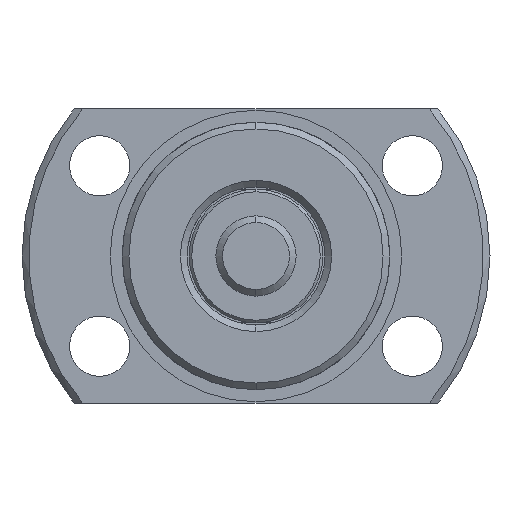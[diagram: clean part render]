
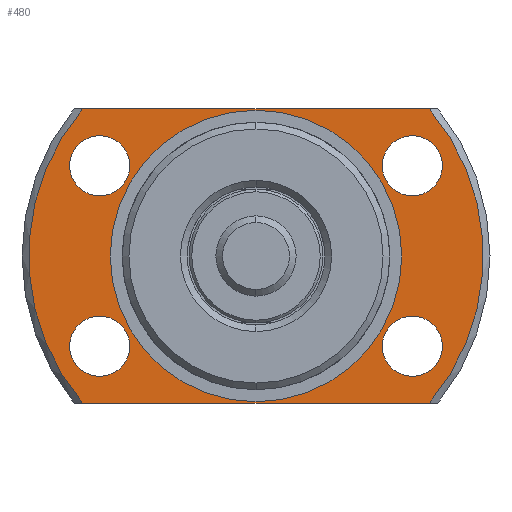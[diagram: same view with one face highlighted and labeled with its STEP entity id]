
A CAD part, left-side view. The second image highlights one B-rep face of the part: STEP entity #480.
In plain terms, the highlighted planar face has unit normal (-1, 0, 0).
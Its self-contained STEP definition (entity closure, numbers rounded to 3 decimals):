
#49 = DIRECTION ( 'NONE',  ( 0., 0., -1. ) ) ;
#51 = CARTESIAN_POINT ( 'NONE',  ( -5., 0., 0. ) ) ;
#68 = DIRECTION ( 'NONE',  ( 1., 0., 0. ) ) ;
#105 = DIRECTION ( 'NONE',  ( 0., 0., 1. ) ) ;
#106 = DIRECTION ( 'NONE',  ( -1., 0., 0. ) ) ;
#109 = CARTESIAN_POINT ( 'NONE',  ( -5., 11.691, -6.75 ) ) ;
#135 = DIRECTION ( 'NONE',  ( 0., 0., 1. ) ) ;
#136 = CARTESIAN_POINT ( 'NONE',  ( -5., 11.691, 6.75 ) ) ;
#137 = DIRECTION ( 'NONE',  ( -1., 0., 0. ) ) ;
#233 = AXIS2_PLACEMENT_3D ( 'NONE', #3146, #3160, #3143 ) ;
#356 = AXIS2_PLACEMENT_3D ( 'NONE', #2792, #2791, #2790 ) ;
#357 = AXIS2_PLACEMENT_3D ( 'NONE', #2787, #2786, #2785 ) ;
#358 = AXIS2_PLACEMENT_3D ( 'NONE', #2777, #2776, #2775 ) ;
#359 = AXIS2_PLACEMENT_3D ( 'NONE', #2774, #2773, #2772 ) ;
#360 = AXIS2_PLACEMENT_3D ( 'NONE', #2769, #2766, #2764 ) ;
#361 = AXIS2_PLACEMENT_3D ( 'NONE', #2755, #2754, #2753 ) ;
#362 = AXIS2_PLACEMENT_3D ( 'NONE', #2747, #2746, #2744 ) ;
#407 = AXIS2_PLACEMENT_3D ( 'NONE', #1800, #1801, #1802 ) ;
#480 = ADVANCED_FACE ( 'NONE', ( #1889, #1379, #1381, #1887, #1377, #1380 ), #3153, .T. ) ;
#742 = EDGE_CURVE ( 'NONE', #2407, #2516, #1418, .T. ) ;
#743 = EDGE_CURVE ( 'NONE', #2403, #2400, #1417, .T. ) ;
#744 = EDGE_CURVE ( 'NONE', #2527, #2531, #1416, .T. ) ;
#745 = EDGE_CURVE ( 'NONE', #2507, #2508, #1415, .T. ) ;
#746 = EDGE_CURVE ( 'NONE', #2541, #2539, #1412, .T. ) ;
#747 = EDGE_CURVE ( 'NONE', #2440, #2438, #1414, .T. ) ;
#748 = EDGE_CURVE ( 'NONE', #2404, #2408, #1410, .T. ) ;
#751 = EDGE_CURVE ( 'NONE', #2527, #2508, #1408, .T. ) ;
#753 = EDGE_CURVE ( 'NONE', #2507, #2531, #1407, .T. ) ;
#815 = AXIS2_PLACEMENT_3D ( 'NONE', #1768, #1772, #1776 ) ;
#817 = AXIS2_PLACEMENT_3D ( 'NONE', #136, #137, #135 ) ;
#819 = AXIS2_PLACEMENT_3D ( 'NONE', #109, #106, #105 ) ;
#821 = AXIS2_PLACEMENT_3D ( 'NONE', #51, #68, #49 ) ;
#894 = CARTESIAN_POINT ( 'NONE',  ( -5., 11.691, 9. ) ) ;
#896 = CARTESIAN_POINT ( 'NONE',  ( -5., 11.691, 4.5 ) ) ;
#906 = CARTESIAN_POINT ( 'NONE',  ( -5., -12.961, -11. ) ) ;
#915 = CARTESIAN_POINT ( 'NONE',  ( -5., 12.961, -11. ) ) ;
#930 = CARTESIAN_POINT ( 'NONE',  ( -5., -11.691, -9. ) ) ;
#939 = CARTESIAN_POINT ( 'NONE',  ( -5., 12.961, 11. ) ) ;
#940 = CARTESIAN_POINT ( 'NONE',  ( -5., -12.961, 11. ) ) ;
#978 = CARTESIAN_POINT ( 'NONE',  ( -5., -11.691, 4.5 ) ) ;
#979 = CARTESIAN_POINT ( 'NONE',  ( -5., -11.691, -4.5 ) ) ;
#986 = CARTESIAN_POINT ( 'NONE',  ( -5., -11.691, 9. ) ) ;
#987 = CARTESIAN_POINT ( 'NONE',  ( -5., 11.691, -4.5 ) ) ;
#999 = CARTESIAN_POINT ( 'NONE',  ( -5., 11.691, -9. ) ) ;
#1020 = CARTESIAN_POINT ( 'NONE',  ( -5., 0., -10.9 ) ) ;
#1022 = CARTESIAN_POINT ( 'NONE',  ( -5., 0., 10.9 ) ) ;
#1377 = FACE_BOUND ( 'NONE', #2090, .T. ) ;
#1379 = FACE_BOUND ( 'NONE', #2083, .T. ) ;
#1380 = FACE_BOUND ( 'NONE', #2094, .T. ) ;
#1381 = FACE_BOUND ( 'NONE', #2092, .T. ) ;
#1407 = CIRCLE ( 'NONE', #362, 17. ) ;
#1408 = CIRCLE ( 'NONE', #361, 17. ) ;
#1410 = CIRCLE ( 'NONE', #360, 2.25 ) ;
#1411 = VECTOR ( 'NONE', #2783, 1000. ) ;
#1412 = CIRCLE ( 'NONE', #358, 2.25 ) ;
#1413 = VECTOR ( 'NONE', #2811, 1000. ) ;
#1414 = CIRCLE ( 'NONE', #359, 10.9 ) ;
#1415 = LINE ( 'NONE', #2789, #1411 ) ;
#1416 = LINE ( 'NONE', #2788, #1413 ) ;
#1417 = CIRCLE ( 'NONE', #357, 2.25 ) ;
#1418 = CIRCLE ( 'NONE', #356, 2.25 ) ;
#1508 = CIRCLE ( 'NONE', #815, 2.25 ) ;
#1515 = CIRCLE ( 'NONE', #407, 2.25 ) ;
#1768 = CARTESIAN_POINT ( 'NONE',  ( -5., -11.691, 6.75 ) ) ;
#1772 = DIRECTION ( 'NONE',  ( -1., 0., 0. ) ) ;
#1776 = DIRECTION ( 'NONE',  ( 0., 0., 1. ) ) ;
#1800 = CARTESIAN_POINT ( 'NONE',  ( -5., -11.691, -6.75 ) ) ;
#1801 = DIRECTION ( 'NONE',  ( -1., 0., 0. ) ) ;
#1802 = DIRECTION ( 'NONE',  ( 0., 0., 1. ) ) ;
#1865 = CIRCLE ( 'NONE', #821, 10.9 ) ;
#1871 = CIRCLE ( 'NONE', #819, 2.25 ) ;
#1876 = CIRCLE ( 'NONE', #817, 2.25 ) ;
#1887 = FACE_OUTER_BOUND ( 'NONE', #2093, .T. ) ;
#1889 = FACE_BOUND ( 'NONE', #2088, .T. ) ;
#2083 = EDGE_LOOP ( 'NONE', ( #4206, #4205 ) ) ;
#2088 = EDGE_LOOP ( 'NONE', ( #4208, #4207 ) ) ;
#2090 = EDGE_LOOP ( 'NONE', ( #4198, #4197 ) ) ;
#2092 = EDGE_LOOP ( 'NONE', ( #4204, #4203 ) ) ;
#2093 = EDGE_LOOP ( 'NONE', ( #4202, #4201, #4200, #4199 ) ) ;
#2094 = EDGE_LOOP ( 'NONE', ( #4196, #4195 ) ) ;
#2400 = VERTEX_POINT ( 'NONE', #999 ) ;
#2403 = VERTEX_POINT ( 'NONE', #987 ) ;
#2404 = VERTEX_POINT ( 'NONE', #986 ) ;
#2407 = VERTEX_POINT ( 'NONE', #979 ) ;
#2408 = VERTEX_POINT ( 'NONE', #978 ) ;
#2438 = VERTEX_POINT ( 'NONE', #1022 ) ;
#2440 = VERTEX_POINT ( 'NONE', #1020 ) ;
#2507 = VERTEX_POINT ( 'NONE', #940 ) ;
#2508 = VERTEX_POINT ( 'NONE', #939 ) ;
#2516 = VERTEX_POINT ( 'NONE', #930 ) ;
#2527 = VERTEX_POINT ( 'NONE', #915 ) ;
#2531 = VERTEX_POINT ( 'NONE', #906 ) ;
#2539 = VERTEX_POINT ( 'NONE', #896 ) ;
#2541 = VERTEX_POINT ( 'NONE', #894 ) ;
#2744 = DIRECTION ( 'NONE',  ( 0., 0., -1. ) ) ;
#2746 = DIRECTION ( 'NONE',  ( 1., 0., 0. ) ) ;
#2747 = CARTESIAN_POINT ( 'NONE',  ( -5., 0., 0. ) ) ;
#2753 = DIRECTION ( 'NONE',  ( 0., 0., -1. ) ) ;
#2754 = DIRECTION ( 'NONE',  ( 1., 0., 0. ) ) ;
#2755 = CARTESIAN_POINT ( 'NONE',  ( -5., 0., 0. ) ) ;
#2764 = DIRECTION ( 'NONE',  ( 0., 0., 1. ) ) ;
#2766 = DIRECTION ( 'NONE',  ( -1., 0., 0. ) ) ;
#2769 = CARTESIAN_POINT ( 'NONE',  ( -5., -11.691, 6.75 ) ) ;
#2772 = DIRECTION ( 'NONE',  ( 0., 0., -1. ) ) ;
#2773 = DIRECTION ( 'NONE',  ( 1., 0., 0. ) ) ;
#2774 = CARTESIAN_POINT ( 'NONE',  ( -5., 0., 0. ) ) ;
#2775 = DIRECTION ( 'NONE',  ( 0., 0., 1. ) ) ;
#2776 = DIRECTION ( 'NONE',  ( -1., 0., 0. ) ) ;
#2777 = CARTESIAN_POINT ( 'NONE',  ( -5., 11.691, 6.75 ) ) ;
#2783 = DIRECTION ( 'NONE',  ( 0., 1., 0. ) ) ;
#2785 = DIRECTION ( 'NONE',  ( 0., 0., 1. ) ) ;
#2786 = DIRECTION ( 'NONE',  ( -1., 0., 0. ) ) ;
#2787 = CARTESIAN_POINT ( 'NONE',  ( -5., 11.691, -6.75 ) ) ;
#2788 = CARTESIAN_POINT ( 'NONE',  ( -5., 17., -11. ) ) ;
#2789 = CARTESIAN_POINT ( 'NONE',  ( -5., 17., 11. ) ) ;
#2790 = DIRECTION ( 'NONE',  ( 0., 0., 1. ) ) ;
#2791 = DIRECTION ( 'NONE',  ( -1., 0., 0. ) ) ;
#2792 = CARTESIAN_POINT ( 'NONE',  ( -5., -11.691, -6.75 ) ) ;
#2811 = DIRECTION ( 'NONE',  ( 0., -1., 0. ) ) ;
#3143 = DIRECTION ( 'NONE',  ( 0., 0., 1. ) ) ;
#3146 = CARTESIAN_POINT ( 'NONE',  ( -5., 17., 0. ) ) ;
#3153 = PLANE ( 'NONE',  #233 ) ;
#3160 = DIRECTION ( 'NONE',  ( -1., 0., 0. ) ) ;
#3697 = EDGE_CURVE ( 'NONE', #2516, #2407, #1515, .T. ) ;
#3701 = EDGE_CURVE ( 'NONE', #2408, #2404, #1508, .T. ) ;
#3705 = EDGE_CURVE ( 'NONE', #2539, #2541, #1876, .T. ) ;
#3709 = EDGE_CURVE ( 'NONE', #2400, #2403, #1871, .T. ) ;
#3713 = EDGE_CURVE ( 'NONE', #2438, #2440, #1865, .T. ) ;
#4195 = ORIENTED_EDGE ( 'NONE', *, *, #742, .F. ) ;
#4196 = ORIENTED_EDGE ( 'NONE', *, *, #3697, .F. ) ;
#4197 = ORIENTED_EDGE ( 'NONE', *, *, #743, .F. ) ;
#4198 = ORIENTED_EDGE ( 'NONE', *, *, #3709, .F. ) ;
#4199 = ORIENTED_EDGE ( 'NONE', *, *, #753, .F. ) ;
#4200 = ORIENTED_EDGE ( 'NONE', *, *, #744, .T. ) ;
#4201 = ORIENTED_EDGE ( 'NONE', *, *, #751, .F. ) ;
#4202 = ORIENTED_EDGE ( 'NONE', *, *, #745, .T. ) ;
#4203 = ORIENTED_EDGE ( 'NONE', *, *, #746, .F. ) ;
#4204 = ORIENTED_EDGE ( 'NONE', *, *, #3705, .F. ) ;
#4205 = ORIENTED_EDGE ( 'NONE', *, *, #3713, .T. ) ;
#4206 = ORIENTED_EDGE ( 'NONE', *, *, #747, .T. ) ;
#4207 = ORIENTED_EDGE ( 'NONE', *, *, #748, .F. ) ;
#4208 = ORIENTED_EDGE ( 'NONE', *, *, #3701, .F. ) ;
